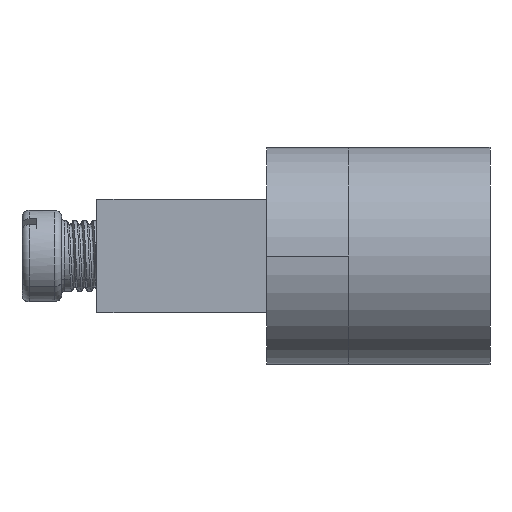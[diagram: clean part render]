
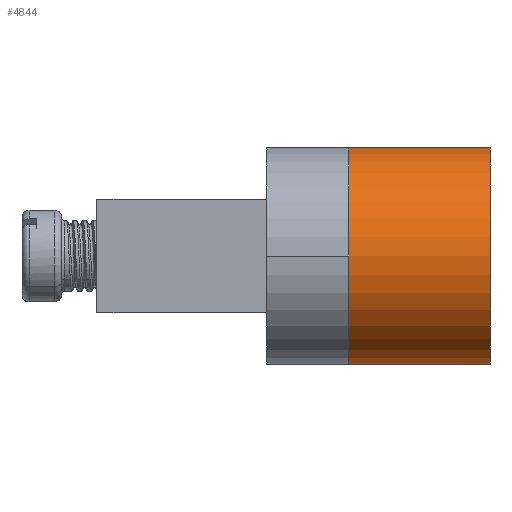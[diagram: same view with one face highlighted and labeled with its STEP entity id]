
A CAD part, left-side view. The second image highlights one B-rep face of the part: STEP entity #4844.
In plain terms, the highlighted cylindrical face has radius 7.7 mm (diameter 15.4 mm), a partial arc.
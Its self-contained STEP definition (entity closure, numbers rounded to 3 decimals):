
#121 = VERTEX_POINT ( 'NONE', #13053 ) ;
#537 = CARTESIAN_POINT ( 'NONE',  ( 14., -7.7, 0. ) ) ;
#759 = VERTEX_POINT ( 'NONE', #8670 ) ;
#859 = CIRCLE ( 'NONE', #3856, 7.7 ) ;
#1129 = EDGE_CURVE ( 'NONE', #759, #7541, #859, .T. ) ;
#1639 = EDGE_CURVE ( 'NONE', #7541, #121, #2818, .T. ) ;
#1814 = CARTESIAN_POINT ( 'NONE',  ( 14., 0., 10. ) ) ;
#1962 = EDGE_CURVE ( 'NONE', #8043, #121, #13167, .T. ) ;
#2083 = AXIS2_PLACEMENT_3D ( 'NONE', #10410, #4089, #11451 ) ;
#2818 = LINE ( 'NONE', #9291, #10901 ) ;
#3024 = EDGE_CURVE ( 'NONE', #759, #8043, #9881, .T. ) ;
#3350 = CYLINDRICAL_SURFACE ( 'NONE', #4433, 7.7 ) ;
#3622 = CARTESIAN_POINT ( 'NONE',  ( 14., -7.7, 10. ) ) ;
#3856 = AXIS2_PLACEMENT_3D ( 'NONE', #3914, #11276, #4962 ) ;
#3914 = CARTESIAN_POINT ( 'NONE',  ( 14., 0., 10. ) ) ;
#3941 = DIRECTION ( 'NONE',  ( 0., 0., -1. ) ) ;
#3943 = VECTOR ( 'NONE', #10986, 1000. ) ;
#4089 = DIRECTION ( 'NONE',  ( 0., 0., 1. ) ) ;
#4333 = FACE_OUTER_BOUND ( 'NONE', #5421, .T. ) ;
#4433 = AXIS2_PLACEMENT_3D ( 'NONE', #1814, #3941, #11307 ) ;
#4844 = ADVANCED_FACE ( 'NONE', ( #4333 ), #3350, .T. ) ;
#4962 = DIRECTION ( 'NONE',  ( 1., 0., 0. ) ) ;
#5421 = EDGE_LOOP ( 'NONE', ( #6517, #8802, #12528, #9357 ) ) ;
#6190 = DIRECTION ( 'NONE',  ( 0., 0., -1. ) ) ;
#6517 = ORIENTED_EDGE ( 'NONE', *, *, #1962, .T. ) ;
#7541 = VERTEX_POINT ( 'NONE', #13106 ) ;
#8043 = VERTEX_POINT ( 'NONE', #537 ) ;
#8670 = CARTESIAN_POINT ( 'NONE',  ( 14., -7.7, 10. ) ) ;
#8802 = ORIENTED_EDGE ( 'NONE', *, *, #1639, .F. ) ;
#9291 = CARTESIAN_POINT ( 'NONE',  ( 14., 7.7, 10. ) ) ;
#9357 = ORIENTED_EDGE ( 'NONE', *, *, #3024, .T. ) ;
#9881 = LINE ( 'NONE', #3622, #3943 ) ;
#10410 = CARTESIAN_POINT ( 'NONE',  ( 14., 0., 0. ) ) ;
#10901 = VECTOR ( 'NONE', #6190, 1000. ) ;
#10986 = DIRECTION ( 'NONE',  ( 0., 0., -1. ) ) ;
#11276 = DIRECTION ( 'NONE',  ( 0., 0., 1. ) ) ;
#11307 = DIRECTION ( 'NONE',  ( -1., 0., 0. ) ) ;
#11451 = DIRECTION ( 'NONE',  ( 1., 0., 0. ) ) ;
#12528 = ORIENTED_EDGE ( 'NONE', *, *, #1129, .F. ) ;
#13053 = CARTESIAN_POINT ( 'NONE',  ( 14., 7.7, 0. ) ) ;
#13106 = CARTESIAN_POINT ( 'NONE',  ( 14., 7.7, 10. ) ) ;
#13167 = CIRCLE ( 'NONE', #2083, 7.7 ) ;
